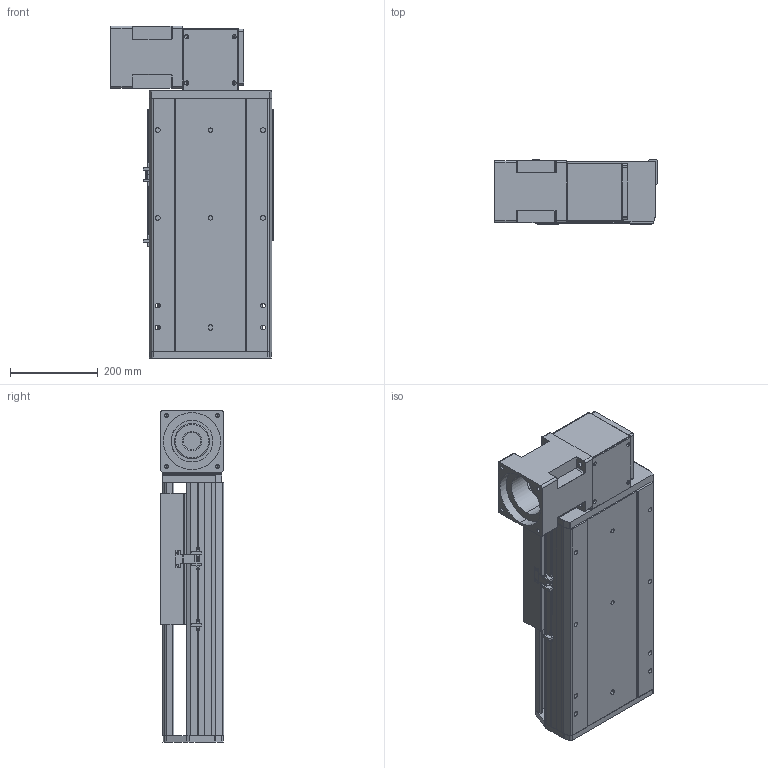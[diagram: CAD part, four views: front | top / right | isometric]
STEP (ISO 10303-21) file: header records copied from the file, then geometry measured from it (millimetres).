
FILE_DESCRIPTION (( 'STEP AP214' ), '1' );
FILE_NAME ('RTB28R-XX-150-BR-M100-XX-C4.STEP', '2025-12-22T01:05:26', ( '' ), ( '' ), 'SwSTEP 2.0', 'SolidWorks 2018', '' );
FILE_SCHEMA (( 'AUTOMOTIVE_DESIGN' ));
Length unit declared in the file: millimetre
Products named in the file (4): RTB28S-GY-011^RTB28R-XX-XX-BR-M100-XX-C4; RTB28S-GY-008^RTB28R-XX-XX-BR-M100-XX-C4; RTB28R-XX-150-BR-M100-XX-C4; RTB28S-GY-004^RTB28R-XX-XX-BR-M100-XX-C4
Assembly tree (3 placements, depth 2):
  RTB28R-XX-150-BR-M100-XX-C4
    RTB28S-GY-011^RTB28R-XX-XX-BR-M100-XX-C4
    RTB28S-GY-004^RTB28R-XX-XX-BR-M100-XX-C4
    RTB28S-GY-008^RTB28R-XX-XX-BR-M100-XX-C4
Bounding box: 370 x 145 x 757 mm (x, y, z)
Volume: 16221204.7 mm3; surface area: 1655103.8 mm2
Topology: 3 solids, 4 shells, 948 faces, 2490 edges, 1596 vertices
Faces by surface type: plane 448, cylinder 329, bspline 87, cone 80, torus 4
Entity records: 40258 total; most frequent: CARTESIAN_POINT 10645, ORIENTED_EDGE 4916, DIRECTION 4734, EDGE_CURVE 2458, AXIS2_PLACEMENT_3D 1601, VERTEX_POINT 1596, VECTOR 1532, LINE 1532
